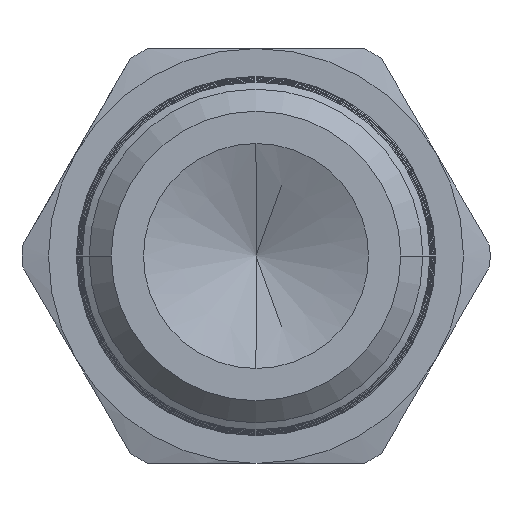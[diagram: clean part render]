
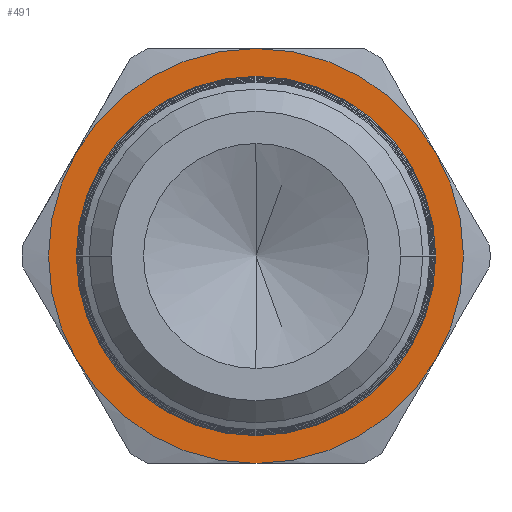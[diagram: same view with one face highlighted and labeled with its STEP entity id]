
A CAD part, left-side view. The second image highlights one B-rep face of the part: STEP entity #491.
In plain terms, the highlighted planar face has unit normal (-1, 0, 0).
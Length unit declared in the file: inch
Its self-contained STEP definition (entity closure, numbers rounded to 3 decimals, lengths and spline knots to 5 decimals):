
#491 = ADVANCED_FACE ( 'NONE', ( #12875, #12867 ), #12876, .F. ) ;
#506 = EDGE_CURVE ( 'NONE', #1524, #1510, #11526, .T. ) ;
#915 = AXIS2_PLACEMENT_3D ( 'NONE', #12871, #12878, #12879 ) ;
#1062 = CIRCLE ( 'NONE', #1079, 0.3125 ) ;
#1074 = CIRCLE ( 'NONE', #1077, 0.3125 ) ;
#1077 = AXIS2_PLACEMENT_3D ( 'NONE', #4468, #4469, #4470 ) ;
#1078 = CIRCLE ( 'NONE', #1081, 0.3125 ) ;
#1079 = AXIS2_PLACEMENT_3D ( 'NONE', #4471, #4472, #4473 ) ;
#1080 = CIRCLE ( 'NONE', #1083, 0.3125 ) ;
#1081 = AXIS2_PLACEMENT_3D ( 'NONE', #4474, #4475, #4476 ) ;
#1082 = CIRCLE ( 'NONE', #1085, 0.3125 ) ;
#1083 = AXIS2_PLACEMENT_3D ( 'NONE', #4477, #4478, #4479 ) ;
#1084 = CIRCLE ( 'NONE', #1087, 0.3125 ) ;
#1085 = AXIS2_PLACEMENT_3D ( 'NONE', #4480, #4481, #4482 ) ;
#1086 = CIRCLE ( 'NONE', #1089, 0.27 ) ;
#1087 = AXIS2_PLACEMENT_3D ( 'NONE', #4483, #4484, #4485 ) ;
#1089 = AXIS2_PLACEMENT_3D ( 'NONE', #4486, #4487, #4488 ) ;
#1510 = VERTEX_POINT ( 'NONE', #7375 ) ;
#1524 = VERTEX_POINT ( 'NONE', #7399 ) ;
#3030 = EDGE_CURVE ( 'NONE', #12485, #12391, #1074, .T. ) ;
#3031 = EDGE_CURVE ( 'NONE', #12411, #12485, #1062, .T. ) ;
#3032 = EDGE_CURVE ( 'NONE', #12487, #12411, #1078, .T. ) ;
#3033 = EDGE_CURVE ( 'NONE', #12450, #12487, #1080, .T. ) ;
#3034 = EDGE_CURVE ( 'NONE', #12431, #12450, #1082, .T. ) ;
#3035 = EDGE_CURVE ( 'NONE', #12391, #12431, #1084, .T. ) ;
#3036 = EDGE_CURVE ( 'NONE', #1510, #1524, #1086, .T. ) ;
#4468 = CARTESIAN_POINT ( 'NONE',  ( 0.535, 0., 0. ) ) ;
#4469 = DIRECTION ( 'NONE',  ( -1., 0., 0. ) ) ;
#4470 = DIRECTION ( 'NONE',  ( 0., 1., 0. ) ) ;
#4471 = CARTESIAN_POINT ( 'NONE',  ( 0.535, 0., 0. ) ) ;
#4472 = DIRECTION ( 'NONE',  ( -1., 0., 0. ) ) ;
#4473 = DIRECTION ( 'NONE',  ( 0., 1., 0. ) ) ;
#4474 = CARTESIAN_POINT ( 'NONE',  ( 0.535, 0., 0. ) ) ;
#4475 = DIRECTION ( 'NONE',  ( -1., 0., 0. ) ) ;
#4476 = DIRECTION ( 'NONE',  ( 0., 1., 0. ) ) ;
#4477 = CARTESIAN_POINT ( 'NONE',  ( 0.535, 0., 0. ) ) ;
#4478 = DIRECTION ( 'NONE',  ( -1., 0., 0. ) ) ;
#4479 = DIRECTION ( 'NONE',  ( 0., 1., 0. ) ) ;
#4480 = CARTESIAN_POINT ( 'NONE',  ( 0.535, 0., 0. ) ) ;
#4481 = DIRECTION ( 'NONE',  ( -1., 0., 0. ) ) ;
#4482 = DIRECTION ( 'NONE',  ( 0., 1., 0. ) ) ;
#4483 = CARTESIAN_POINT ( 'NONE',  ( 0.535, 0., 0. ) ) ;
#4484 = DIRECTION ( 'NONE',  ( -1., 0., 0. ) ) ;
#4485 = DIRECTION ( 'NONE',  ( 0., 1., 0. ) ) ;
#4486 = CARTESIAN_POINT ( 'NONE',  ( 0.535, 0., 0. ) ) ;
#4487 = DIRECTION ( 'NONE',  ( 1., 0., 0. ) ) ;
#4488 = DIRECTION ( 'NONE',  ( 0., 1., 0. ) ) ;
#7375 = CARTESIAN_POINT ( 'NONE',  ( 0.535, 0.27, 0. ) ) ;
#7399 = CARTESIAN_POINT ( 'NONE',  ( 0.535, -0.27, 0. ) ) ;
#10684 = CARTESIAN_POINT ( 'NONE',  ( 0.535, 0.27063, 0.15625 ) ) ;
#10700 = CARTESIAN_POINT ( 'NONE',  ( 0.535, -0.27063, 0.15625 ) ) ;
#10720 = CARTESIAN_POINT ( 'NONE',  ( 0.535, 0.27063, -0.15625 ) ) ;
#10739 = CARTESIAN_POINT ( 'NONE',  ( 0.535, 0., -0.3125 ) ) ;
#10774 = CARTESIAN_POINT ( 'NONE',  ( 0.535, 0., 0.3125 ) ) ;
#10776 = CARTESIAN_POINT ( 'NONE',  ( 0.535, -0.27063, -0.15625 ) ) ;
#11386 = EDGE_LOOP ( 'NONE', ( #12313, #12314, #12315, #12316, #12317, #12318 ) ) ;
#11408 = EDGE_LOOP ( 'NONE', ( #12311, #12312 ) ) ;
#11416 = AXIS2_PLACEMENT_3D ( 'NONE', #12925, #12926, #12927 ) ;
#11526 = CIRCLE ( 'NONE', #11416, 0.27 ) ;
#12311 = ORIENTED_EDGE ( 'NONE', *, *, #3036, .T. ) ;
#12312 = ORIENTED_EDGE ( 'NONE', *, *, #506, .T. ) ;
#12313 = ORIENTED_EDGE ( 'NONE', *, *, #3035, .T. ) ;
#12314 = ORIENTED_EDGE ( 'NONE', *, *, #3034, .T. ) ;
#12315 = ORIENTED_EDGE ( 'NONE', *, *, #3033, .T. ) ;
#12316 = ORIENTED_EDGE ( 'NONE', *, *, #3032, .T. ) ;
#12317 = ORIENTED_EDGE ( 'NONE', *, *, #3031, .T. ) ;
#12318 = ORIENTED_EDGE ( 'NONE', *, *, #3030, .T. ) ;
#12391 = VERTEX_POINT ( 'NONE', #10684 ) ;
#12411 = VERTEX_POINT ( 'NONE', #10700 ) ;
#12431 = VERTEX_POINT ( 'NONE', #10720 ) ;
#12450 = VERTEX_POINT ( 'NONE', #10739 ) ;
#12485 = VERTEX_POINT ( 'NONE', #10774 ) ;
#12487 = VERTEX_POINT ( 'NONE', #10776 ) ;
#12867 = FACE_OUTER_BOUND ( 'NONE', #11386, .T. ) ;
#12871 = CARTESIAN_POINT ( 'NONE',  ( 0.535, 0.5122, 0. ) ) ;
#12875 = FACE_BOUND ( 'NONE', #11408, .T. ) ;
#12876 = PLANE ( 'NONE',  #915 ) ;
#12878 = DIRECTION ( 'NONE',  ( 1., 0., 0. ) ) ;
#12879 = DIRECTION ( 'NONE',  ( 0., -1., 0. ) ) ;
#12925 = CARTESIAN_POINT ( 'NONE',  ( 0.535, 0., 0. ) ) ;
#12926 = DIRECTION ( 'NONE',  ( 1., 0., 0. ) ) ;
#12927 = DIRECTION ( 'NONE',  ( 0., 1., 0. ) ) ;
